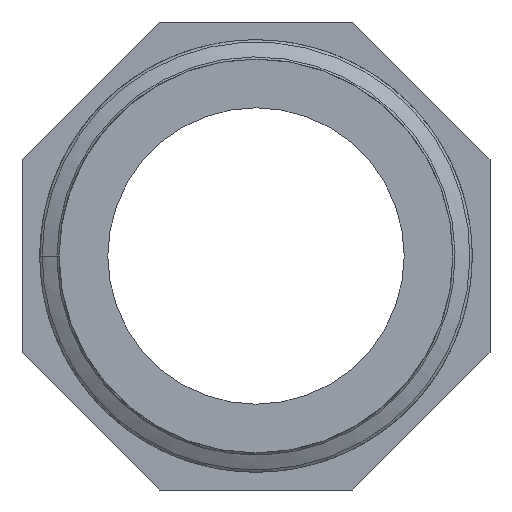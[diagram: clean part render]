
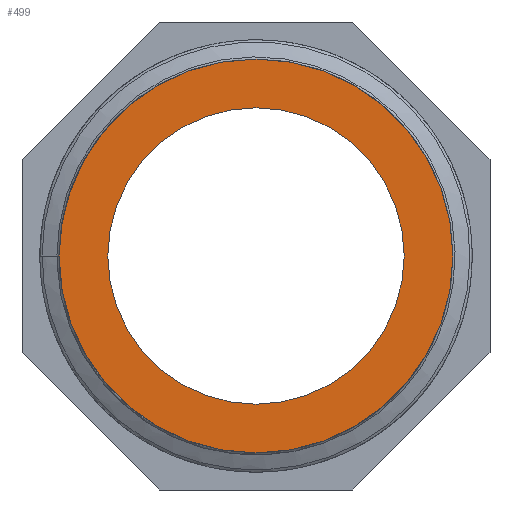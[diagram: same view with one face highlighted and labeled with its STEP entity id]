
A CAD part, front view. The second image highlights one B-rep face of the part: STEP entity #499.
In plain terms, the highlighted planar face has unit normal (0, -1, 0).
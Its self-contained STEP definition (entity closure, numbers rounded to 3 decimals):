
#112=PLANE('',#542);
#123=FACE_BOUND('',#198,.T.);
#157=FACE_OUTER_BOUND('',#197,.T.);
#197=EDGE_LOOP('',(#453));
#198=EDGE_LOOP('',(#454));
#227=CIRCLE('',#526,15.146);
#230=CIRCLE('',#541,11.4);
#257=VERTEX_POINT('',#3143);
#276=VERTEX_POINT('',#3810);
#312=EDGE_CURVE('',#257,#257,#227,.T.);
#339=EDGE_CURVE('',#276,#276,#230,.T.);
#453=ORIENTED_EDGE('',*,*,#312,.F.);
#454=ORIENTED_EDGE('',*,*,#339,.T.);
#499=ADVANCED_FACE('',(#157,#123),#112,.T.);
#526=AXIS2_PLACEMENT_3D('',#3754,#595,#596);
#541=AXIS2_PLACEMENT_3D('',#3811,#649,#650);
#542=AXIS2_PLACEMENT_3D('',#3812,#651,#652);
#595=DIRECTION('center_axis',(0.,1.,0.));
#596=DIRECTION('ref_axis',(1.,0.,0.));
#649=DIRECTION('center_axis',(0.,1.,0.));
#650=DIRECTION('ref_axis',(1.,0.,0.));
#651=DIRECTION('center_axis',(0.,-1.,0.));
#652=DIRECTION('ref_axis',(0.,0.,-1.));
#3143=CARTESIAN_POINT('',(-15.146,0.,0.));
#3754=CARTESIAN_POINT('Origin',(0.,0.,0.));
#3810=CARTESIAN_POINT('',(-11.4,0.,0.));
#3811=CARTESIAN_POINT('Origin',(0.,0.,0.));
#3812=CARTESIAN_POINT('Origin',(-15.146,0.,0.));
